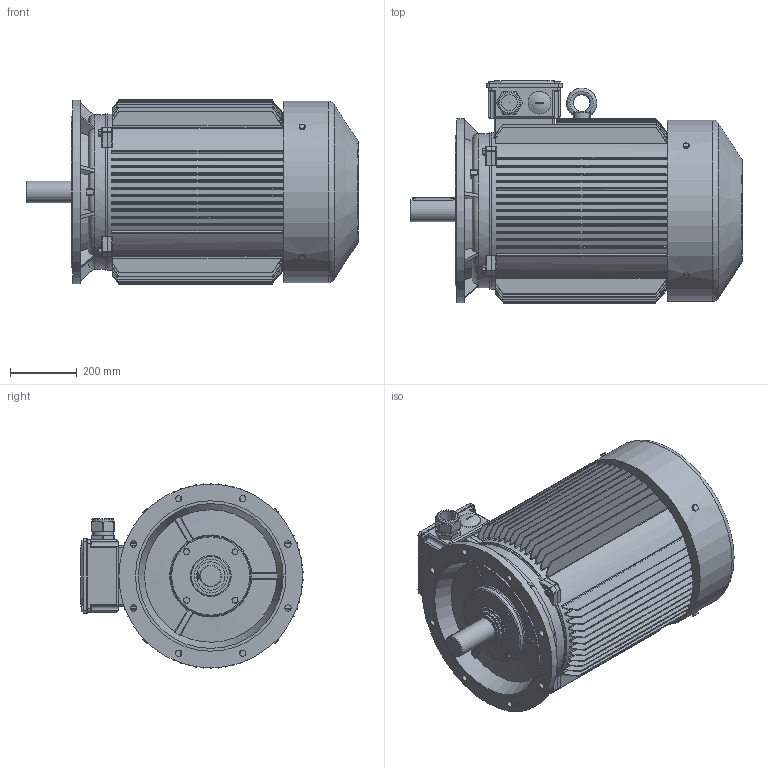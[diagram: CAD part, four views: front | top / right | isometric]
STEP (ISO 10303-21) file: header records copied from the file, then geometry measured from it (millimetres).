
FILE_DESCRIPTION((''),'2;1');
FILE_NAME('U:\Inventor 2012\121 - OMEC MOTORS\1408 - MOTOREN CAD BIBLIOTHEEK\1408 - Gereed\3D - Step - nieuwe nummering\Step zonder Omec logo\280\01-IP55-Cast Iron-IE3-280M B5-2.stp','2015-09-01T09:33:44',('Freek'),(''),'Autodesk Inventor 2012','Autodesk Inventor 2012','');
FILE_SCHEMA(('AUTOMOTIVE_DESIGN { 1 0 10303 214 1 1 1 1 }'));
Length unit declared in the file: millimetre
Products named in the file (1): 1408-358
Bounding box: 993.1 x 666.03 x 552.15 mm (x, y, z)
Volume: 159972005.8 mm3; surface area: 4698848.7 mm2
Topology: 3 solids, 21 shells, 3460 faces, 8405 edges, 5480 vertices
Faces by surface type: plane 2780, cylinder 391, cone 243, torus 17, bspline 15, sphere 14
Full cylindrical faces by diameter (mm): 1 x2, 9.188 x8, 10 x24, 11.053 x4, 11.5 x1, 12 x8, 15.4 x12, 17.2 x4, 19 x8, 48 x1, 60 x1, 63 x1, 65 x1, 66 x1, 68 x1, 85 x1, 94.8 x1, 99.8 x1, 100 x1, 116 x1, 240 x2, 296 x1, 450 x1, 462 x1, 468 x2, 543 x1, 550 x1
Entity records: 108698 total; most frequent: CARTESIAN_POINT 25761, ORIENTED_EDGE 16508, DIRECTION 15243, EDGE_CURVE 8254, VECTOR 6551, LINE 6551, VERTEX_POINT 5444, AXIS2_PLACEMENT_3D 4346
